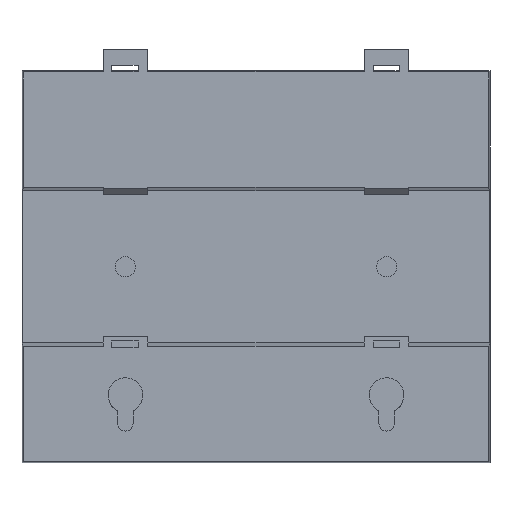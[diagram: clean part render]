
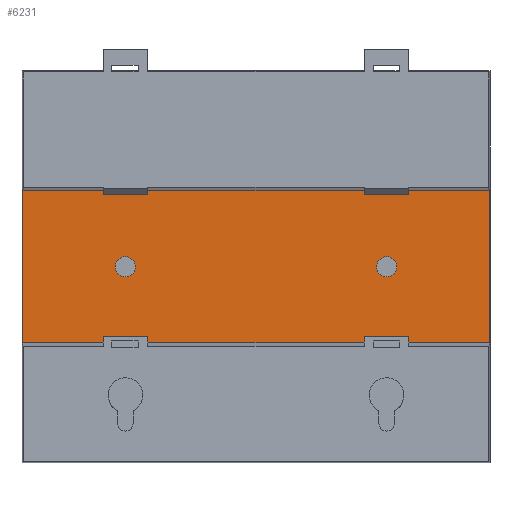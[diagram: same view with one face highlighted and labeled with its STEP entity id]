
A CAD part, front view. The second image highlights one B-rep face of the part: STEP entity #6231.
In plain terms, the highlighted planar face has unit normal (0, -1, 0).
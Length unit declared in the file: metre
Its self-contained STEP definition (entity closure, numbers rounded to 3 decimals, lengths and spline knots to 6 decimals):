
#551=CIRCLE('',#7404,0.0023);
#552=CIRCLE('',#7405,0.0023);
#715=ORIENTED_EDGE('',*,*,#2424,.T.);
#716=ORIENTED_EDGE('',*,*,#2441,.F.);
#717=ORIENTED_EDGE('',*,*,#2410,.F.);
#718=ORIENTED_EDGE('',*,*,#2428,.T.);
#719=ORIENTED_EDGE('',*,*,#2442,.F.);
#720=ORIENTED_EDGE('',*,*,#2443,.F.);
#2410=EDGE_CURVE('',#3282,#3283,#3891,.F.);
#2424=EDGE_CURVE('',#3288,#3289,#3905,.T.);
#2428=EDGE_CURVE('',#3282,#3288,#3909,.T.);
#2441=EDGE_CURVE('',#3283,#3289,#3922,.T.);
#2442=EDGE_CURVE('',#3300,#3300,#551,.F.);
#2443=EDGE_CURVE('',#3301,#3301,#552,.F.);
#3282=VERTEX_POINT('',#9196);
#3283=VERTEX_POINT('',#9198);
#3288=VERTEX_POINT('',#9216);
#3289=VERTEX_POINT('',#9219);
#3300=VERTEX_POINT('',#9253);
#3301=VERTEX_POINT('',#9255);
#3891=LINE('',#9197,#4486);
#3905=LINE('',#9220,#4500);
#3909=LINE('',#9228,#4504);
#3922=LINE('',#9250,#4517);
#4486=VECTOR('',#7840,1.);
#4500=VECTOR('',#7858,1.);
#4504=VECTOR('',#7866,1.);
#4517=VECTOR('',#7881,1.);
#5017=EDGE_LOOP('',(#715,#716,#717,#718));
#5018=EDGE_LOOP('',(#719));
#5019=EDGE_LOOP('',(#720));
#5510=FACE_BOUND('',#5017,.T.);
#5511=FACE_BOUND('',#5018,.T.);
#5512=FACE_BOUND('',#5019,.T.);
#5997=PLANE('',#7403);
#6231=ADVANCED_FACE('',(#5510,#5511,#5512),#5997,.F.);
#7403=AXIS2_PLACEMENT_3D('',#9251,#7882,#7883);
#7404=AXIS2_PLACEMENT_3D('',#9252,#7884,#7885);
#7405=AXIS2_PLACEMENT_3D('',#9254,#7886,#7887);
#7840=DIRECTION('',(0.,0.,1.));
#7858=DIRECTION('',(0.,0.,-1.));
#7866=DIRECTION('',(-1.,0.,0.));
#7881=DIRECTION('',(-1.,0.,0.));
#7882=DIRECTION('',(0.,1.,0.));
#7883=DIRECTION('',(0.,0.,1.));
#7884=DIRECTION('',(0.,1.,0.));
#7885=DIRECTION('',(0.,0.,1.));
#7886=DIRECTION('',(0.,1.,0.));
#7887=DIRECTION('',(0.,0.,1.));
#9196=CARTESIAN_POINT('',(0.053579,-0.0098,0.0175));
#9197=CARTESIAN_POINT('',(0.053579,-0.0098,-0.045));
#9198=CARTESIAN_POINT('',(0.053579,-0.0098,-0.0175));
#9216=CARTESIAN_POINT('',(-0.053579,-0.0098,0.0175));
#9219=CARTESIAN_POINT('',(-0.053579,-0.0098,-0.0175));
#9220=CARTESIAN_POINT('',(-0.053579,-0.0098,-0.045));
#9228=CARTESIAN_POINT('',(0.155342,-0.0098,0.0175));
#9250=CARTESIAN_POINT('',(0.155342,-0.0098,-0.0175));
#9251=CARTESIAN_POINT('',(0.155342,-0.0098,0.));
#9252=CARTESIAN_POINT('',(-0.03,-0.0098,0.));
#9253=CARTESIAN_POINT('',(-0.03,-0.0098,0.0023));
#9254=CARTESIAN_POINT('',(0.03,-0.0098,0.));
#9255=CARTESIAN_POINT('',(0.03,-0.0098,0.0023));
